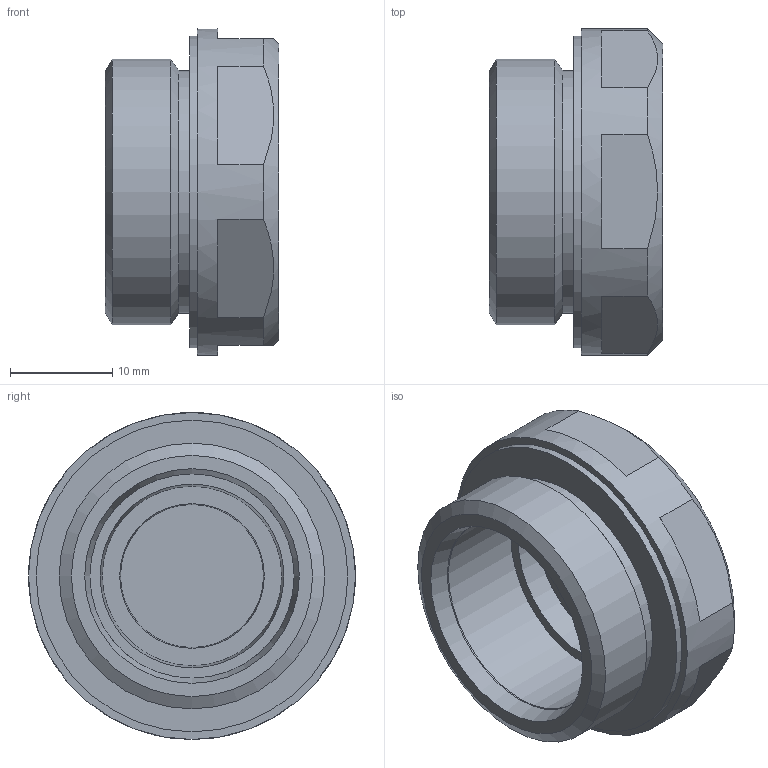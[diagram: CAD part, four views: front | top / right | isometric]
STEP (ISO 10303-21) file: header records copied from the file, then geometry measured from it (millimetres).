
FILE_DESCRIPTION( ( 'STEP AP203' ), '1' );
FILE_NAME( 'C:/Temp/Ganter_Step_05_03_2020/data/3_5/gn7404/gn7404_al/Two-way breathable membrane GN 7404-AL-M26x1,5-1,2.stp', '2020-03-12T13:44:04', ( 'License CC BY-ND 4.0' ), ( 'CADENAS' ), ' ', 'PARTsolutions', ' ' );
FILE_SCHEMA( ( 'CONFIG_CONTROL_DESIGN' ) );
Length unit declared in the file: millimetre
Products named in the file (1): _Two-way breathable membrane GN 7404-AL-M26x1,5-1,2
Bounding box: 17 x 32 x 32 mm (x, y, z)
Volume: 6074.7 mm3; surface area: 4730.9 mm2
Topology: 1 solids, 1 shells, 87 faces, 294 edges, 191 vertices
Faces by surface type: cylinder 50, plane 22, cone 9, torus 4, sphere 2
Full cylindrical faces by diameter (mm): 1.6 x19, 18 x1, 19.7 x1, 20 x1, 23.8 x1, 26 x1, 30.5 x1, 32 x1
Entity records: 4202 total; most frequent: CARTESIAN_POINT 2036, ORIENTED_EDGE 442, DIRECTION 356, EDGE_CURVE 221, EDGE_LOOP 172, VERTEX_POINT 161, AXIS2_PLACEMENT_3D 157, FACE_OUTER_BOUND 119
